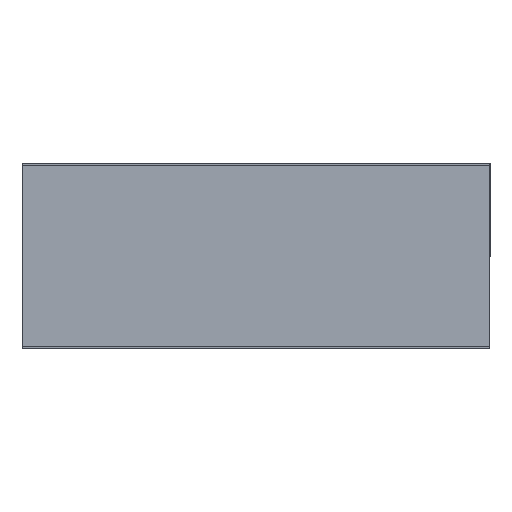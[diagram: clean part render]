
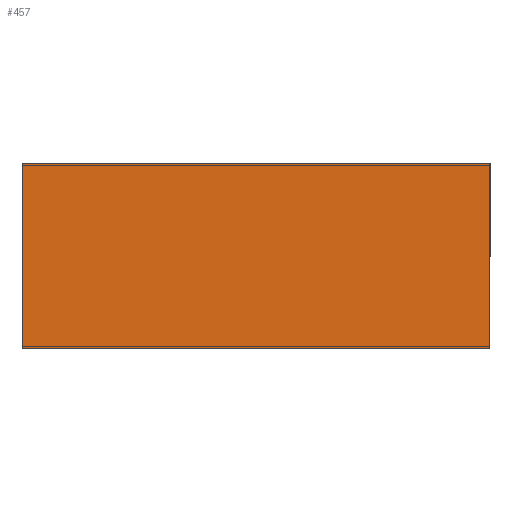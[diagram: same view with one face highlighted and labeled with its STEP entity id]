
A CAD part, left-side view. The second image highlights one B-rep face of the part: STEP entity #457.
In plain terms, the highlighted planar face has unit normal (-1, 0, 0).
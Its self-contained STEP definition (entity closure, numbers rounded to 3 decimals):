
#39=FACE_OUTER_BOUND('',#65,.T.);
#65=EDGE_LOOP('',(#379,#380,#381,#382));
#120=LINE('',#734,#180);
#121=LINE('',#737,#181);
#122=LINE('',#739,#182);
#123=LINE('',#740,#183);
#180=VECTOR('',#605,10.);
#181=VECTOR('',#608,10.);
#182=VECTOR('',#609,10.);
#183=VECTOR('',#610,10.);
#225=VERTEX_POINT('',#730);
#226=VERTEX_POINT('',#732);
#227=VERTEX_POINT('',#736);
#228=VERTEX_POINT('',#738);
#280=EDGE_CURVE('',#225,#226,#120,.T.);
#281=EDGE_CURVE('',#227,#226,#121,.T.);
#282=EDGE_CURVE('',#228,#227,#122,.T.);
#283=EDGE_CURVE('',#228,#225,#123,.T.);
#379=ORIENTED_EDGE('',*,*,#281,.F.);
#380=ORIENTED_EDGE('',*,*,#282,.F.);
#381=ORIENTED_EDGE('',*,*,#283,.T.);
#382=ORIENTED_EDGE('',*,*,#280,.T.);
#431=PLANE('',#508);
#457=ADVANCED_FACE('',(#39),#431,.T.);
#508=AXIS2_PLACEMENT_3D('',#735,#606,#607);
#605=DIRECTION('',(0.,-1.,0.));
#606=DIRECTION('center_axis',(-1.,0.,0.));
#607=DIRECTION('ref_axis',(0.,0.,1.));
#608=DIRECTION('',(0.,0.,-1.));
#609=DIRECTION('',(0.,-1.,0.));
#610=DIRECTION('',(0.,0.,-1.));
#730=CARTESIAN_POINT('',(-0.005,1.55,-0.005));
#732=CARTESIAN_POINT('',(-0.005,0.,-0.005));
#734=CARTESIAN_POINT('',(-0.005,1.55,-0.005));
#735=CARTESIAN_POINT('Origin',(-0.005,-0.001,0.3));
#736=CARTESIAN_POINT('',(-0.005,0.,0.605));
#737=CARTESIAN_POINT('',(-0.005,0.,0.605));
#738=CARTESIAN_POINT('',(-0.005,1.55,0.605));
#739=CARTESIAN_POINT('',(-0.005,1.55,0.605));
#740=CARTESIAN_POINT('',(-0.005,1.55,0.605));
